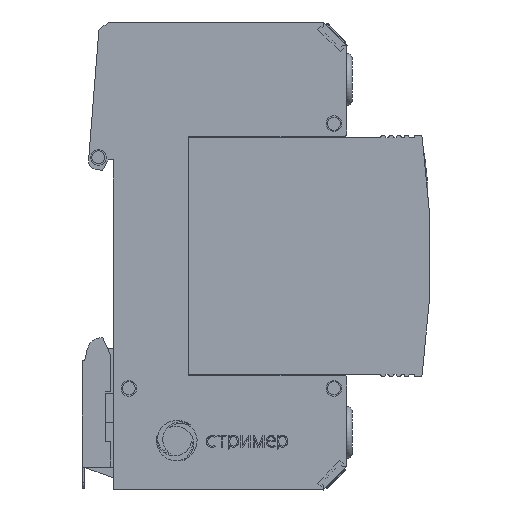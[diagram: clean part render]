
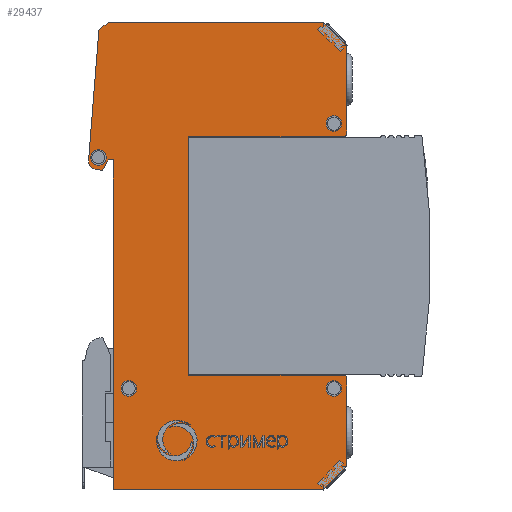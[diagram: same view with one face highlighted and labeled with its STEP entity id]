
A CAD part, front view. The second image highlights one B-rep face of the part: STEP entity #29437.
In plain terms, the highlighted planar face has unit normal (0, -1, 0).
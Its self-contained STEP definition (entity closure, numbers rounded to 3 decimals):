
#27637=CARTESIAN_POINT('',(-14.5,-9.,-45.));
#27638=VERTEX_POINT('',#27637);
#27639=CARTESIAN_POINT('',(26.,-9.,-45.));
#27640=VERTEX_POINT('',#27639);
#27641=CARTESIAN_POINT('',(-14.5,-9.,-45.));
#27642=DIRECTION('',(1.,0.,-0.));
#27643=VECTOR('',#27642,40.5);
#27644=LINE('',#27641,#27643);
#27645=EDGE_CURVE('',#27638,#27640,#27644,.T.);
#28307=CARTESIAN_POINT('',(-14.5,-9.,18.5));
#28308=VERTEX_POINT('',#28307);
#28309=CARTESIAN_POINT('',(-14.5,-9.,18.5));
#28310=DIRECTION('',(0.,0.,-1.));
#28311=VECTOR('',#28310,63.5);
#28312=LINE('',#28309,#28311);
#28313=EDGE_CURVE('',#28308,#27638,#28312,.T.);
#28508=CARTESIAN_POINT('',(-15.5,-9.,45.));
#28509=VERTEX_POINT('',#28508);
#28510=CARTESIAN_POINT('',(-17.29,-9.,43.498));
#28511=VERTEX_POINT('',#28510);
#28512=CARTESIAN_POINT('',(-15.5,-9.,45.));
#28513=DIRECTION('',(-0.766,0.,-0.643));
#28514=VECTOR('',#28513,2.337);
#28515=LINE('',#28512,#28514);
#28516=EDGE_CURVE('',#28509,#28511,#28515,.T.);
#28548=CARTESIAN_POINT('',(-19.273,-9.,18.306));
#28549=VERTEX_POINT('',#28548);
#28550=CARTESIAN_POINT('',(-17.29,-9.,43.498));
#28551=DIRECTION('',(-0.078,0.,-0.997));
#28552=VECTOR('',#28551,25.27);
#28553=LINE('',#28550,#28552);
#28554=EDGE_CURVE('',#28511,#28549,#28553,.T.);
#28579=CARTESIAN_POINT('',(-17.999,-9.,16.704));
#28580=VERTEX_POINT('',#28579);
#28581=CARTESIAN_POINT('',(-17.777,-9.,18.188));
#28582=DIRECTION('',(0.,-1.,0.));
#28583=DIRECTION('',(0.,0.,1.));
#28584=AXIS2_PLACEMENT_3D('',#28581,#28582,#28583);
#28585=CIRCLE('',#28584,1.5);
#28586=EDGE_CURVE('',#28549,#28580,#28585,.T.);
#28612=CARTESIAN_POINT('',(-16.632,-9.,16.5));
#28613=VERTEX_POINT('',#28612);
#28614=CARTESIAN_POINT('',(-17.999,-9.,16.704));
#28615=DIRECTION('',(0.989,0.,-0.148));
#28616=VECTOR('',#28615,1.383);
#28617=LINE('',#28614,#28616);
#28618=EDGE_CURVE('',#28580,#28613,#28617,.T.);
#28643=CARTESIAN_POINT('',(-15.5,-9.,18.5));
#28644=VERTEX_POINT('',#28643);
#28645=CARTESIAN_POINT('',(-16.632,-9.,16.5));
#28646=DIRECTION('',(0.492,0.,0.87));
#28647=VECTOR('',#28646,2.298);
#28648=LINE('',#28645,#28647);
#28649=EDGE_CURVE('',#28613,#28644,#28648,.T.);
#28674=CARTESIAN_POINT('',(-15.5,-9.,18.5));
#28675=DIRECTION('',(1.,0.,0.));
#28676=VECTOR('',#28675,1.);
#28677=LINE('',#28674,#28676);
#28678=EDGE_CURVE('',#28644,#28308,#28677,.T.);
#28696=CARTESIAN_POINT('',(30.5,-9.,-40.5));
#28697=VERTEX_POINT('',#28696);
#28698=CARTESIAN_POINT('',(26.,-9.,-45.));
#28699=DIRECTION('',(0.707,0.,0.707));
#28700=VECTOR('',#28699,6.364);
#28701=LINE('',#28698,#28700);
#28702=EDGE_CURVE('',#27640,#28697,#28701,.T.);
#28747=CARTESIAN_POINT('',(30.5,-9.,-23.5));
#28748=VERTEX_POINT('',#28747);
#28749=CARTESIAN_POINT('',(30.5,-9.,-40.5));
#28750=DIRECTION('',(0.,0.,1.));
#28751=VECTOR('',#28750,17.);
#28752=LINE('',#28749,#28751);
#28753=EDGE_CURVE('',#28697,#28748,#28752,.T.);
#28778=CARTESIAN_POINT('',(30.,-9.,-23.));
#28779=VERTEX_POINT('',#28778);
#28780=CARTESIAN_POINT('',(30.,-9.,-23.5));
#28781=DIRECTION('',(0.,-1.,0.));
#28782=DIRECTION('',(0.,0.,1.));
#28783=AXIS2_PLACEMENT_3D('',#28780,#28781,#28782);
#28784=CIRCLE('',#28783,0.5);
#28785=EDGE_CURVE('',#28748,#28779,#28784,.T.);
#28811=CARTESIAN_POINT('',(0.,-9.,-23.));
#28812=VERTEX_POINT('',#28811);
#28813=CARTESIAN_POINT('',(30.,-9.,-23.));
#28814=DIRECTION('',(-1.,0.,0.));
#28815=VECTOR('',#28814,30.);
#28816=LINE('',#28813,#28815);
#28817=EDGE_CURVE('',#28779,#28812,#28816,.T.);
#28842=CARTESIAN_POINT('',(0.,-9.,23.));
#28843=VERTEX_POINT('',#28842);
#28844=CARTESIAN_POINT('',(0.,-9.,-23.));
#28845=DIRECTION('',(0.,0.,1.));
#28846=VECTOR('',#28845,46.);
#28847=LINE('',#28844,#28846);
#28848=EDGE_CURVE('',#28812,#28843,#28847,.T.);
#28873=CARTESIAN_POINT('',(30.,-9.,23.));
#28874=VERTEX_POINT('',#28873);
#28875=CARTESIAN_POINT('',(0.,-9.,23.));
#28876=DIRECTION('',(1.,0.,0.));
#28877=VECTOR('',#28876,30.);
#28878=LINE('',#28875,#28877);
#28879=EDGE_CURVE('',#28843,#28874,#28878,.T.);
#28904=CARTESIAN_POINT('',(30.5,-9.,23.5));
#28905=VERTEX_POINT('',#28904);
#28906=CARTESIAN_POINT('',(30.,-9.,23.5));
#28907=DIRECTION('',(0.,-1.,0.));
#28908=DIRECTION('',(0.,0.,1.));
#28909=AXIS2_PLACEMENT_3D('',#28906,#28907,#28908);
#28910=CIRCLE('',#28909,0.5);
#28911=EDGE_CURVE('',#28874,#28905,#28910,.T.);
#28957=CARTESIAN_POINT('',(30.5,-9.,40.5));
#28958=VERTEX_POINT('',#28957);
#28959=CARTESIAN_POINT('',(30.5,-9.,23.5));
#28960=DIRECTION('',(0.,0.,1.));
#28961=VECTOR('',#28960,17.);
#28962=LINE('',#28959,#28961);
#28963=EDGE_CURVE('',#28905,#28958,#28962,.T.);
#28988=CARTESIAN_POINT('',(26.,-9.,45.));
#28989=VERTEX_POINT('',#28988);
#28990=CARTESIAN_POINT('',(30.5,-9.,40.5));
#28991=DIRECTION('',(-0.707,0.,0.707));
#28992=VECTOR('',#28991,6.364);
#28993=LINE('',#28990,#28992);
#28994=EDGE_CURVE('',#28958,#28989,#28993,.T.);
#29019=CARTESIAN_POINT('',(-17.38,-9.,17.5));
#29020=VERTEX_POINT('',#29019);
#29029=CARTESIAN_POINT('',(-18.88,-9.,19.));
#29030=VERTEX_POINT('',#29029);
#29031=CARTESIAN_POINT('',(-17.38,-9.,19.));
#29032=DIRECTION('',(0.,-1.,0.));
#29033=DIRECTION('',(-1.,0.,0.));
#29034=AXIS2_PLACEMENT_3D('',#29031,#29032,#29033);
#29035=CIRCLE('',#29034,1.5);
#29036=EDGE_CURVE('',#29020,#29030,#29035,.T.);
#29061=CARTESIAN_POINT('',(28.,-9.,24.));
#29062=VERTEX_POINT('',#29061);
#29071=CARTESIAN_POINT('',(26.5,-9.,25.5));
#29072=VERTEX_POINT('',#29071);
#29073=CARTESIAN_POINT('',(28.,-9.,25.5));
#29074=DIRECTION('',(0.,-1.,0.));
#29075=DIRECTION('',(-1.,0.,0.));
#29076=AXIS2_PLACEMENT_3D('',#29073,#29074,#29075);
#29077=CIRCLE('',#29076,1.5);
#29078=EDGE_CURVE('',#29062,#29072,#29077,.T.);
#29103=CARTESIAN_POINT('',(-11.5,-9.,-27.));
#29104=VERTEX_POINT('',#29103);
#29113=CARTESIAN_POINT('',(-13.,-9.,-25.5));
#29114=VERTEX_POINT('',#29113);
#29115=CARTESIAN_POINT('',(-11.5,-9.,-25.5));
#29116=DIRECTION('',(0.,-1.,0.));
#29117=DIRECTION('',(-1.,0.,0.));
#29118=AXIS2_PLACEMENT_3D('',#29115,#29116,#29117);
#29119=CIRCLE('',#29118,1.5);
#29120=EDGE_CURVE('',#29104,#29114,#29119,.T.);
#29145=CARTESIAN_POINT('',(28.,-9.,-27.));
#29146=VERTEX_POINT('',#29145);
#29155=CARTESIAN_POINT('',(26.5,-9.,-25.5));
#29156=VERTEX_POINT('',#29155);
#29157=CARTESIAN_POINT('',(28.,-9.,-25.5));
#29158=DIRECTION('',(0.,-1.,0.));
#29159=DIRECTION('',(-1.,0.,0.));
#29160=AXIS2_PLACEMENT_3D('',#29157,#29158,#29159);
#29161=CIRCLE('',#29160,1.5);
#29162=EDGE_CURVE('',#29146,#29156,#29161,.T.);
#29289=CARTESIAN_POINT('',(26.,-9.,45.));
#29290=DIRECTION('',(-1.,0.,0.));
#29291=VECTOR('',#29290,41.5);
#29292=LINE('',#29289,#29291);
#29293=EDGE_CURVE('',#28989,#28509,#29292,.T.);
#29372=CARTESIAN_POINT('',(0.,-9.,0.));
#29373=DIRECTION('',(0.,-1.,0.));
#29374=DIRECTION('',(0.,0.,1.));
#29375=AXIS2_PLACEMENT_3D('',#29372,#29373,#29374);
#29376=PLANE('',#29375);
#29377=ORIENTED_EDGE('',*,*,#29162,.F.);
#29378=CARTESIAN_POINT('',(28.,-9.,-25.5));
#29379=DIRECTION('',(0.,-1.,0.));
#29380=DIRECTION('',(-1.,0.,0.));
#29381=AXIS2_PLACEMENT_3D('',#29378,#29379,#29380);
#29382=CIRCLE('',#29381,1.5);
#29383=EDGE_CURVE('',#29156,#29146,#29382,.T.);
#29384=ORIENTED_EDGE('',*,*,#29383,.F.);
#29385=EDGE_LOOP('',(#29377,#29384));
#29386=FACE_BOUND('',#29385,.T.);
#29387=ORIENTED_EDGE('',*,*,#29120,.F.);
#29388=CARTESIAN_POINT('',(-11.5,-9.,-25.5));
#29389=DIRECTION('',(0.,-1.,0.));
#29390=DIRECTION('',(-1.,0.,0.));
#29391=AXIS2_PLACEMENT_3D('',#29388,#29389,#29390);
#29392=CIRCLE('',#29391,1.5);
#29393=EDGE_CURVE('',#29114,#29104,#29392,.T.);
#29394=ORIENTED_EDGE('',*,*,#29393,.F.);
#29395=EDGE_LOOP('',(#29387,#29394));
#29396=FACE_BOUND('',#29395,.T.);
#29397=ORIENTED_EDGE('',*,*,#29078,.F.);
#29398=CARTESIAN_POINT('',(28.,-9.,25.5));
#29399=DIRECTION('',(0.,-1.,0.));
#29400=DIRECTION('',(-1.,0.,0.));
#29401=AXIS2_PLACEMENT_3D('',#29398,#29399,#29400);
#29402=CIRCLE('',#29401,1.5);
#29403=EDGE_CURVE('',#29072,#29062,#29402,.T.);
#29404=ORIENTED_EDGE('',*,*,#29403,.F.);
#29405=EDGE_LOOP('',(#29397,#29404));
#29406=FACE_BOUND('',#29405,.T.);
#29407=ORIENTED_EDGE('',*,*,#29036,.F.);
#29408=CARTESIAN_POINT('',(-17.38,-9.,19.));
#29409=DIRECTION('',(0.,-1.,0.));
#29410=DIRECTION('',(-1.,0.,0.));
#29411=AXIS2_PLACEMENT_3D('',#29408,#29409,#29410);
#29412=CIRCLE('',#29411,1.5);
#29413=EDGE_CURVE('',#29030,#29020,#29412,.T.);
#29414=ORIENTED_EDGE('',*,*,#29413,.F.);
#29415=EDGE_LOOP('',(#29407,#29414));
#29416=FACE_BOUND('',#29415,.T.);
#29417=ORIENTED_EDGE('',*,*,#28516,.T.);
#29418=ORIENTED_EDGE('',*,*,#28554,.T.);
#29419=ORIENTED_EDGE('',*,*,#28586,.T.);
#29420=ORIENTED_EDGE('',*,*,#28618,.T.);
#29421=ORIENTED_EDGE('',*,*,#28649,.T.);
#29422=ORIENTED_EDGE('',*,*,#28678,.T.);
#29423=ORIENTED_EDGE('',*,*,#28313,.T.);
#29424=ORIENTED_EDGE('',*,*,#27645,.T.);
#29425=ORIENTED_EDGE('',*,*,#28702,.T.);
#29426=ORIENTED_EDGE('',*,*,#28753,.T.);
#29427=ORIENTED_EDGE('',*,*,#28785,.T.);
#29428=ORIENTED_EDGE('',*,*,#28817,.T.);
#29429=ORIENTED_EDGE('',*,*,#28848,.T.);
#29430=ORIENTED_EDGE('',*,*,#28879,.T.);
#29431=ORIENTED_EDGE('',*,*,#28911,.T.);
#29432=ORIENTED_EDGE('',*,*,#28963,.T.);
#29433=ORIENTED_EDGE('',*,*,#28994,.T.);
#29434=ORIENTED_EDGE('',*,*,#29293,.T.);
#29435=EDGE_LOOP('',(#29417,#29418,#29419,#29420,#29421,#29422,#29423,#29424,#29425,#29426,#29427,#29428,#29429,#29430,#29431,#29432,#29433,#29434));
#29436=FACE_BOUND('',#29435,.T.);
#29437=ADVANCED_FACE('',(#29386,#29396,#29406,#29416,#29436),#29376,.T.);
